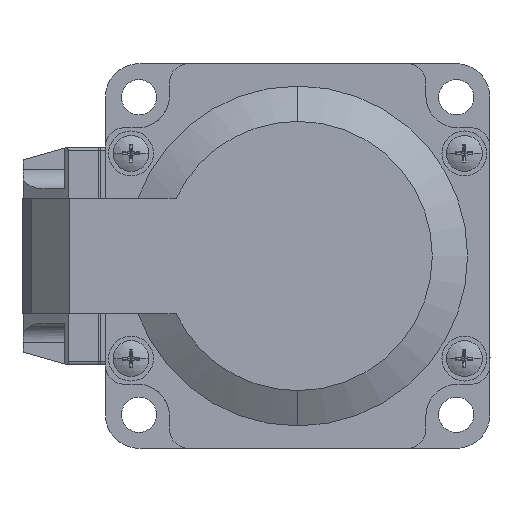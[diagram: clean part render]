
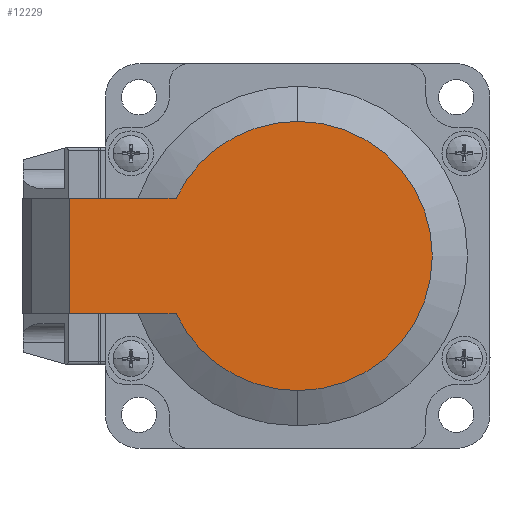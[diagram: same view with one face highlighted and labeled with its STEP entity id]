
A CAD part, front view. The second image highlights one B-rep face of the part: STEP entity #12229.
In plain terms, the highlighted planar face has unit normal (0, -1, 0).
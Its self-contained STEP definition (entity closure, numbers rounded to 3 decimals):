
#260 = VERTEX_POINT ( 'NONE', #19026 ) ;
#430 = DIRECTION ( 'NONE',  ( 0., 0., -1. ) ) ;
#1050 = CARTESIAN_POINT ( 'NONE',  ( -18.974, -106., 9. ) ) ;
#1319 = CARTESIAN_POINT ( 'NONE',  ( -35.583, -106., 9. ) ) ;
#1602 = EDGE_CURVE ( 'NONE', #18823, #260, #16426, .T. ) ;
#1803 = EDGE_CURVE ( 'NONE', #1816, #17728, #14546, .T. ) ;
#1816 = VERTEX_POINT ( 'NONE', #2668 ) ;
#2033 = AXIS2_PLACEMENT_3D ( 'NONE', #8328, #17190, #3917 ) ;
#2154 = ORIENTED_EDGE ( 'NONE', *, *, #3181, .T. ) ;
#2385 = FACE_OUTER_BOUND ( 'NONE', #2609, .T. ) ;
#2609 = EDGE_LOOP ( 'NONE', ( #3702, #6723, #2154, #10270, #3264, #4455 ) ) ;
#2668 = CARTESIAN_POINT ( 'NONE',  ( 0., -106., 21. ) ) ;
#2674 = CARTESIAN_POINT ( 'NONE',  ( -18.974, -106., -9. ) ) ;
#2726 = LINE ( 'NONE', #1319, #9966 ) ;
#2806 = DIRECTION ( 'NONE',  ( -1., 0., 0. ) ) ;
#3181 = EDGE_CURVE ( 'NONE', #9968, #1816, #15887, .T. ) ;
#3264 = ORIENTED_EDGE ( 'NONE', *, *, #6521, .T. ) ;
#3702 = ORIENTED_EDGE ( 'NONE', *, *, #15231, .F. ) ;
#3917 = DIRECTION ( 'NONE',  ( 0., 0., -1. ) ) ;
#4357 = CIRCLE ( 'NONE', #8881, 21. ) ;
#4455 = ORIENTED_EDGE ( 'NONE', *, *, #1602, .F. ) ;
#4923 = CARTESIAN_POINT ( 'NONE',  ( 0., -106., 0. ) ) ;
#5239 = VECTOR ( 'NONE', #10696, 1000. ) ;
#6349 = DIRECTION ( 'NONE',  ( 0., -1., 0. ) ) ;
#6521 = EDGE_CURVE ( 'NONE', #17728, #260, #2726, .T. ) ;
#6723 = ORIENTED_EDGE ( 'NONE', *, *, #17043, .T. ) ;
#6911 = DIRECTION ( 'NONE',  ( 0., 0., -1. ) ) ;
#7457 = VECTOR ( 'NONE', #13994, 1000. ) ;
#7651 = DIRECTION ( 'NONE',  ( 0., -1., 0. ) ) ;
#7823 = CARTESIAN_POINT ( 'NONE',  ( -35.583, -106., -9. ) ) ;
#8328 = CARTESIAN_POINT ( 'NONE',  ( 0., -106., 0. ) ) ;
#8390 = LINE ( 'NONE', #15359, #7457 ) ;
#8881 = AXIS2_PLACEMENT_3D ( 'NONE', #4923, #7651, #430 ) ;
#9531 = CARTESIAN_POINT ( 'NONE',  ( 0., -106., -21. ) ) ;
#9966 = VECTOR ( 'NONE', #2806, 1000. ) ;
#9968 = VERTEX_POINT ( 'NONE', #17214 ) ;
#10106 = CARTESIAN_POINT ( 'NONE',  ( 0., -106., 0. ) ) ;
#10270 = ORIENTED_EDGE ( 'NONE', *, *, #1803, .T. ) ;
#10654 = VERTEX_POINT ( 'NONE', #2674 ) ;
#10696 = DIRECTION ( 'NONE',  ( 0., 0., 1. ) ) ;
#12229 = ADVANCED_FACE ( 'NONE', ( #2385 ), #13956, .T. ) ;
#13444 = AXIS2_PLACEMENT_3D ( 'NONE', #9531, #6349, #13843 ) ;
#13843 = DIRECTION ( 'NONE',  ( 0., 0., -1. ) ) ;
#13956 = PLANE ( 'NONE',  #13444 ) ;
#13994 = DIRECTION ( 'NONE',  ( -1., 0., 0. ) ) ;
#14546 = CIRCLE ( 'NONE', #15988, 21. ) ;
#14674 = CARTESIAN_POINT ( 'NONE',  ( -35.583, -106., -9. ) ) ;
#15231 = EDGE_CURVE ( 'NONE', #10654, #18823, #8390, .T. ) ;
#15359 = CARTESIAN_POINT ( 'NONE',  ( -35.583, -106., -9. ) ) ;
#15887 = CIRCLE ( 'NONE', #2033, 21. ) ;
#15988 = AXIS2_PLACEMENT_3D ( 'NONE', #10106, #18755, #6911 ) ;
#16426 = LINE ( 'NONE', #7823, #5239 ) ;
#17043 = EDGE_CURVE ( 'NONE', #10654, #9968, #4357, .T. ) ;
#17190 = DIRECTION ( 'NONE',  ( 0., -1., 0. ) ) ;
#17214 = CARTESIAN_POINT ( 'NONE',  ( 0., -106., -21. ) ) ;
#17728 = VERTEX_POINT ( 'NONE', #1050 ) ;
#18755 = DIRECTION ( 'NONE',  ( 0., -1., 0. ) ) ;
#18823 = VERTEX_POINT ( 'NONE', #14674 ) ;
#19026 = CARTESIAN_POINT ( 'NONE',  ( -35.583, -106., 9. ) ) ;
